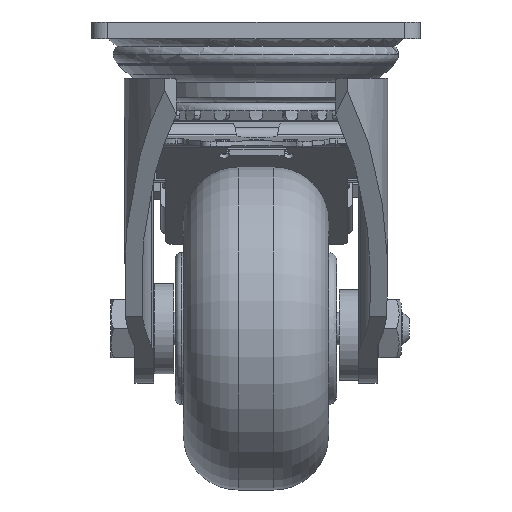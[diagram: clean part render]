
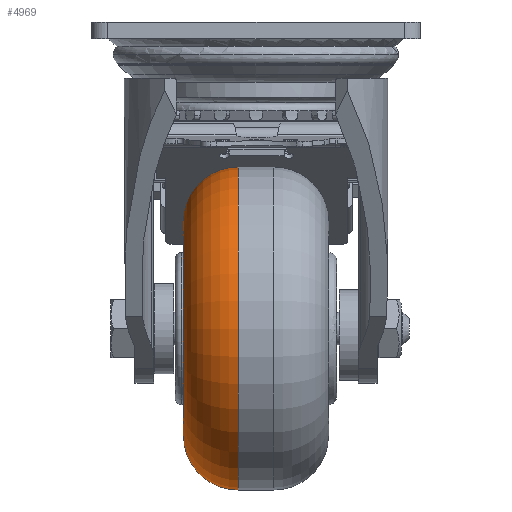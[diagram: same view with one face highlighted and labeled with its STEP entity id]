
A CAD part, left-side view. The second image highlights one B-rep face of the part: STEP entity #4969.
In plain terms, the highlighted toroidal (fillet/blend) face has major radius 33.066 mm and minor radius 16.934 mm.
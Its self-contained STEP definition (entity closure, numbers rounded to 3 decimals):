
#1225=TOROIDAL_SURFACE('',#30723,33.066,16.934);
#3942=FACE_BOUND('',#8882,.T.);
#3943=FACE_BOUND('',#8883,.T.);
#4969=ADVANCED_FACE('',(#3942,#3943),#1225,.T.);
#8882=EDGE_LOOP('',(#18277));
#8883=EDGE_LOOP('',(#18278));
#10251=CIRCLE('',#30719,50.);
#10253=CIRCLE('',#30722,33.066);
#18277=ORIENTED_EDGE('',*,*,#27150,.T.);
#18278=ORIENTED_EDGE('',*,*,#27148,.F.);
#23644=VERTEX_POINT('',#61694);
#23646=VERTEX_POINT('',#61699);
#27148=EDGE_CURVE('',#23644,#23644,#10251,.T.);
#27150=EDGE_CURVE('',#23646,#23646,#10253,.T.);
#30719=AXIS2_PLACEMENT_3D('',#61693,#35479,#35480);
#30722=AXIS2_PLACEMENT_3D('',#61698,#35485,#35486);
#30723=AXIS2_PLACEMENT_3D('',#61700,#35487,#35488);
#35479=DIRECTION('',(0.,-1.,0.));
#35480=DIRECTION('',(1.,0.,0.));
#35485=DIRECTION('',(0.,-1.,0.));
#35486=DIRECTION('',(1.,0.,0.));
#35487=DIRECTION('',(0.,1.,0.));
#35488=DIRECTION('',(1.,0.,0.));
#61693=CARTESIAN_POINT('',(34.,5.566,-95.));
#61694=CARTESIAN_POINT('',(84.,5.566,-95.));
#61698=CARTESIAN_POINT('',(34.,22.5,-95.));
#61699=CARTESIAN_POINT('',(67.066,22.5,-95.));
#61700=CARTESIAN_POINT('',(34.,5.566,-95.));
